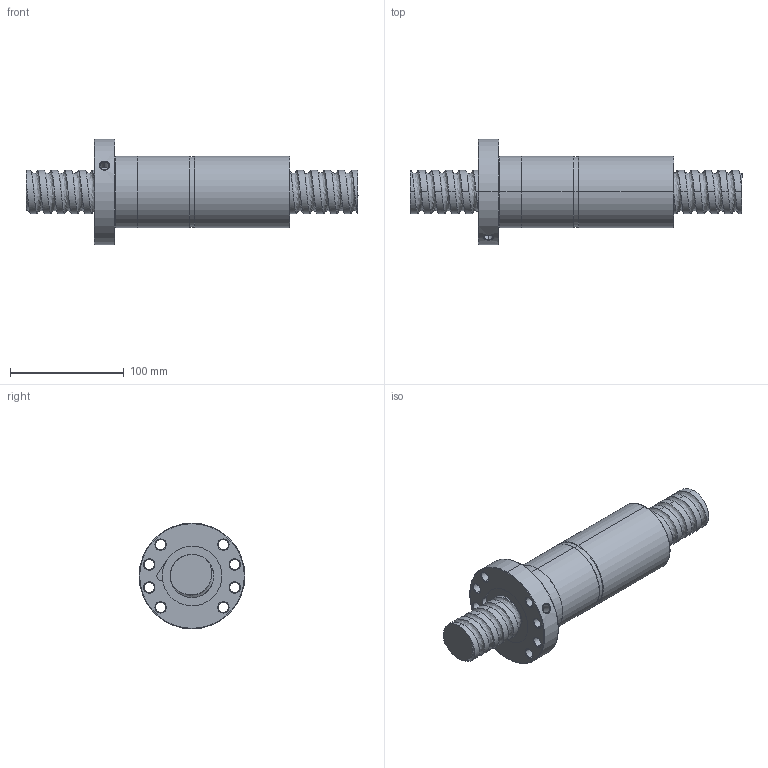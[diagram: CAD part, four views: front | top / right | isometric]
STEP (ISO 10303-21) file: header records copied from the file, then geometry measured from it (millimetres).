
FILE_DESCRIPTION (( 'STEP AP214' ), '1' );
FILE_NAME ('FDDC03812T5-F-A.STEP', '2010-07-06T05:34:44', ( 'XPAUTO' ), ( 'XPAUTO' ), 'SwSTEP 2.0', 'SolidWorks 2007', '' );
FILE_SCHEMA (( 'AUTOMOTIVE_DESIGN' ));
Products named in the file (3): FDDC03812T5-F-A; FDDC03812T5-F-A.sldasm-Part-1_預設; FDDC03812T5-F-A.sldasm-Part-2_預設
Assembly tree (2 placements, depth 2):
  FDDC03812T5-F-A
    FDDC03812T5-F-A.sldasm-Part-1_預設
    FDDC03812T5-F-A.sldasm-Part-2_預設
Bounding box: 292 x 93 x 93 mm (x, y, z)
Volume: 691641 mm3; surface area: 113648 mm2
Topology: 2 solids, 2 shells, 157 faces, 393 edges, 245 vertices
Faces by surface type: cylinder 94, cone 32, plane 16, torus 10, bspline 5
Entity records: 46006 total; most frequent: CARTESIAN_POINT 42274, ORIENTED_EDGE 786, DIRECTION 729, EDGE_CURVE 393, AXIS2_PLACEMENT_3D 298, VERTEX_POINT 245, EDGE_LOOP 182, FACE_OUTER_BOUND 157
